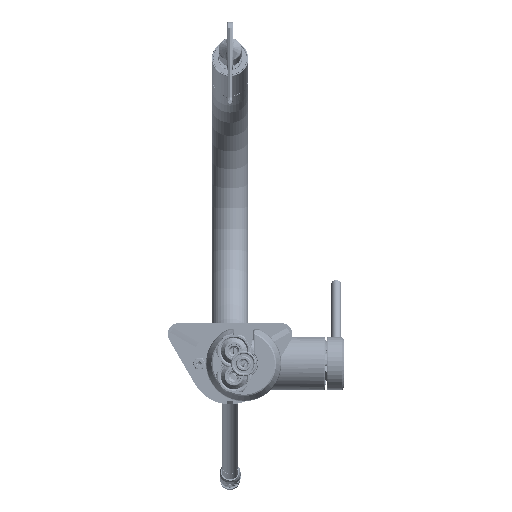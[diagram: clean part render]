
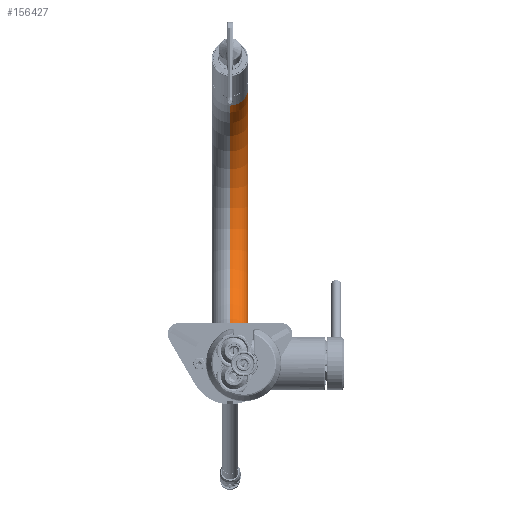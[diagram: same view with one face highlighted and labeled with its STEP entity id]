
A CAD part, front view. The second image highlights one B-rep face of the part: STEP entity #156427.
In plain terms, the highlighted toroidal (fillet/blend) face has major radius 100 mm and minor radius 13 mm.
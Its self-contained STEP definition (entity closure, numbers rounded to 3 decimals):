
#155581=CARTESIAN_POINT('',(0.,135.,-100.));
#155582=DIRECTION('',(-1.,0.,0.));
#155583=DIRECTION('',(0.,0.,1.));
#155584=AXIS2_PLACEMENT_3D('',#155581,#155582,#155583);
#155586=CARTESIAN_POINT('',(0.,135.,0.));
#155587=DIRECTION('',(0.,1.,0.));
#155588=DIRECTION('',(0.,0.,-1.));
#155589=AXIS2_PLACEMENT_3D('',#155586,#155587,#155588);
#155591=CARTESIAN_POINT('',(0.,135.,-100.));
#155592=DIRECTION('',(-1.,0.,0.));
#155593=DIRECTION('',(0.,0.,1.));
#155594=AXIS2_PLACEMENT_3D('',#155591,#155592,#155593);
#155622=CARTESIAN_POINT('',(0.,160.882,-196.593));
#155623=DIRECTION('',(0.,-0.966,-0.259));
#155624=DIRECTION('',(0.,-0.259,0.966));
#155625=AXIS2_PLACEMENT_3D('',#155622,#155623,#155624);
#156190=CARTESIAN_POINT('',(0.,135.,-13.));
#156191=CARTESIAN_POINT('',(0.,135.,13.));
#156192=VERTEX_POINT('',#156190);
#156193=VERTEX_POINT('',#156191);
#156194=CARTESIAN_POINT('',(0.,157.517,-184.036));
#156195=CARTESIAN_POINT('',(0.,164.247,-209.15));
#156196=VERTEX_POINT('',#156194);
#156197=VERTEX_POINT('',#156195);
#156415=CARTESIAN_POINT('',(0.,135.,-100.));
#156416=DIRECTION('',(-1.,0.,0.));
#156417=DIRECTION('',(0.,0.,-1.));
#156418=AXIS2_PLACEMENT_3D('',#156415,#156416,#156417);
#156419=TOROIDAL_SURFACE('',#156418,100.,13.);
#156420=ORIENTED_EDGE('',*,*,#156349,.F.);
#156421=ORIENTED_EDGE('',*,*,#156410,.T.);
#156423=ORIENTED_EDGE('',*,*,#156422,.T.);
#156424=ORIENTED_EDGE('',*,*,#156406,.F.);
#156425=EDGE_LOOP('',(#156420,#156421,#156423,#156424));
#156426=FACE_OUTER_BOUND('',#156425,.F.);
#156427=ADVANCED_FACE('',(#156426),#156419,.T.);
#155585=CIRCLE('',#155584,113.);
#155590=CIRCLE('',#155589,13.);
#155595=CIRCLE('',#155594,87.);
#155626=CIRCLE('',#155625,13.);
#156349=EDGE_CURVE('',#156192,#156193,#155590,.T.);
#156406=EDGE_CURVE('',#156193,#156197,#155585,.T.);
#156410=EDGE_CURVE('',#156192,#156196,#155595,.T.);
#156422=EDGE_CURVE('',#156196,#156197,#155626,.T.);
